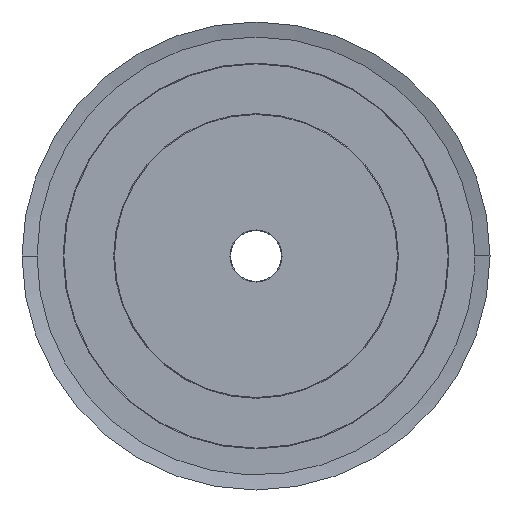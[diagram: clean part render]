
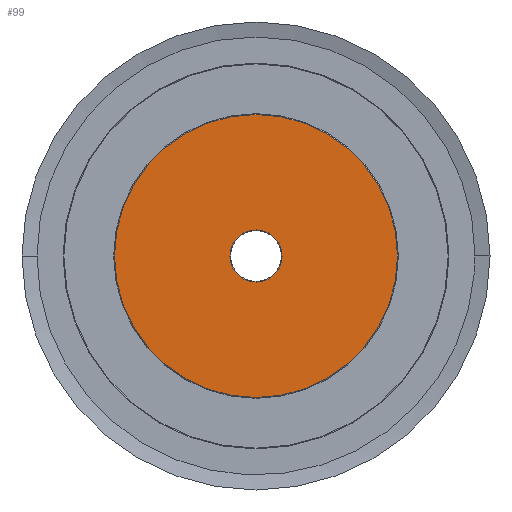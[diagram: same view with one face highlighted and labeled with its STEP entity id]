
A CAD part, left-side view. The second image highlights one B-rep face of the part: STEP entity #99.
In plain terms, the highlighted planar face has unit normal (-1, 0, 0).
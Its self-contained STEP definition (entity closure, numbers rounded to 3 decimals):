
#99=ADVANCED_FACE('',(#612,#613),#614,.T.);
#612=FACE_BOUND('',#1594,.T.);
#613=FACE_OUTER_BOUND('',#1595,.T.);
#614=PLANE('',#1596);
#1594=EDGE_LOOP('',(#3089,#3090));
#1595=EDGE_LOOP('',(#3091,#3092));
#1596=AXIS2_PLACEMENT_3D('',#3093,#3094,#3095);
#3089=ORIENTED_EDGE('',*,*,#7306,.T.);
#3090=ORIENTED_EDGE('',*,*,#7312,.T.);
#3091=ORIENTED_EDGE('',*,*,#7316,.T.);
#3092=ORIENTED_EDGE('',*,*,#7292,.T.);
#3093=CARTESIAN_POINT('',(0.0,0.0,0.0));
#3094=DIRECTION('',(-1.0,0.0,0.0));
#3095=DIRECTION('',(0.0,0.0,1.0));
#7292=EDGE_CURVE('',#9149,#9146,#9150,.T.);
#7306=EDGE_CURVE('',#9171,#9173,#9175,.T.);
#7312=EDGE_CURVE('',#9173,#9171,#9183,.T.);
#7316=EDGE_CURVE('',#9146,#9149,#9187,.T.);
#9146=VERTEX_POINT('',#13860);
#9149=VERTEX_POINT('',#13864);
#9150=CIRCLE('',#13865,89.5);
#9171=VERTEX_POINT('',#13891);
#9173=VERTEX_POINT('',#13894);
#9175=CIRCLE('',#13897,16.5);
#9183=CIRCLE('',#13907,16.5);
#9187=CIRCLE('',#13911,89.5);
#13860=CARTESIAN_POINT('',(0.0,89.5,0.0));
#13864=CARTESIAN_POINT('',(0.0,-89.5,0.));
#13865=AXIS2_PLACEMENT_3D('',#18506,#18507,#18508);
#13891=CARTESIAN_POINT('',(0.0,16.5,0.0));
#13894=CARTESIAN_POINT('',(0.0,-16.5,0.));
#13897=AXIS2_PLACEMENT_3D('',#18534,#18535,#18536);
#13907=AXIS2_PLACEMENT_3D('',#18548,#18549,#18550);
#13911=AXIS2_PLACEMENT_3D('',#18560,#18561,#18562);
#18506=CARTESIAN_POINT('',(0.0,0.0,0.));
#18507=DIRECTION('',(-1.0,0.0,0.0));
#18508=DIRECTION('',(0.0,1.0,0.0));
#18534=CARTESIAN_POINT('',(0.0,0.0,0.0));
#18535=DIRECTION('',(1.0,0.0,0.0));
#18536=DIRECTION('',(0.0,1.0,0.0));
#18548=CARTESIAN_POINT('',(0.0,0.0,0.0));
#18549=DIRECTION('',(1.0,0.0,0.0));
#18550=DIRECTION('',(0.0,1.0,0.0));
#18560=CARTESIAN_POINT('',(0.0,0.0,0.));
#18561=DIRECTION('',(-1.0,0.0,0.0));
#18562=DIRECTION('',(0.0,1.0,0.0));
